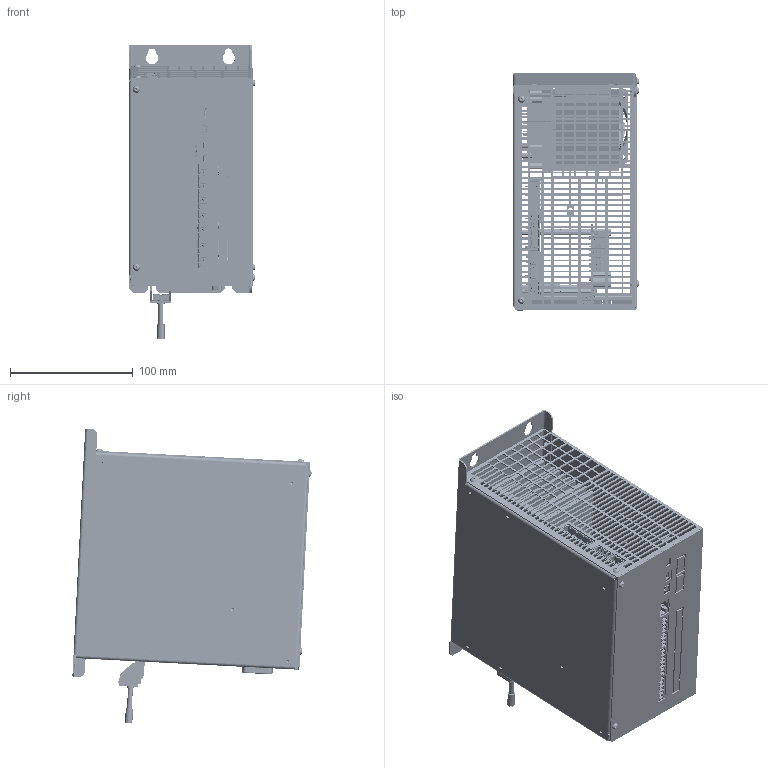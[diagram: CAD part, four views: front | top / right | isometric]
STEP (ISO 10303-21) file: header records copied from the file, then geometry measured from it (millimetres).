
FILE_DESCRIPTION(/* description */ (''),/* implementation_level */ '2;1');
FILE_NAME(/* name */ 'C:\Users\Jean-Yves\Documents\Inventor\SMD400-8-POUR-PLAN-CLIENT\SMD400-P08.stp',/* time_stamp */ '2021-02-05T17:22:47+01:00',/* author */ ('Jean-Yves'),/* organization */ (''),/* preprocessor_version */ 'ST-DEVELOPER v18',/* originating_system */ 'Autodesk Inventor 2020',/* authorisation */ '');
FILE_SCHEMA (('CONFIG_CONTROL_DESIGN'));
Products named in the file (1): smd400-p08_Shrinkwrap_1
Bounding box: 102.65 x 194.73 x 239.9 mm (x, y, z)
Volume: 543031.3 mm3; surface area: 568679.3 mm2
Topology: 62 solids, 72 shells, 9794 faces, 26569 edges, 17399 vertices
Faces by surface type: plane 7630, cylinder 1548, cone 270, torus 157, bspline 135, sphere 54
Full cylindrical faces by diameter (mm): 0.434 x4, 0.457 x14, 0.711 x27, 0.8 x5, 0.838 x34, 0.889 x34, 0.9 x2, 0.92 x26, 0.965 x18, 1 x26, 1.079 x14, 1.092 x35, 1.2 x53, 1.25 x25, 1.27 x49, 1.4 x21, 1.5 x10, 1.524 x7, 1.6 x22, 1.905 x10, 2.013 x1, 2.18 x2, 2.459 x37, 2.5 x21, 2.667 x1, 2.7 x4, 2.75 x5, 2.8 x11, 3 x28, 3.05 x2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
Entity records: 329703 total; most frequent: CARTESIAN_POINT 67052, ORIENTED_EDGE 52930, DIRECTION 50266, EDGE_CURVE 26485, LINE 20448, VECTOR 20448, VERTEX_POINT 17399, AXIS2_PLACEMENT_3D 14909
